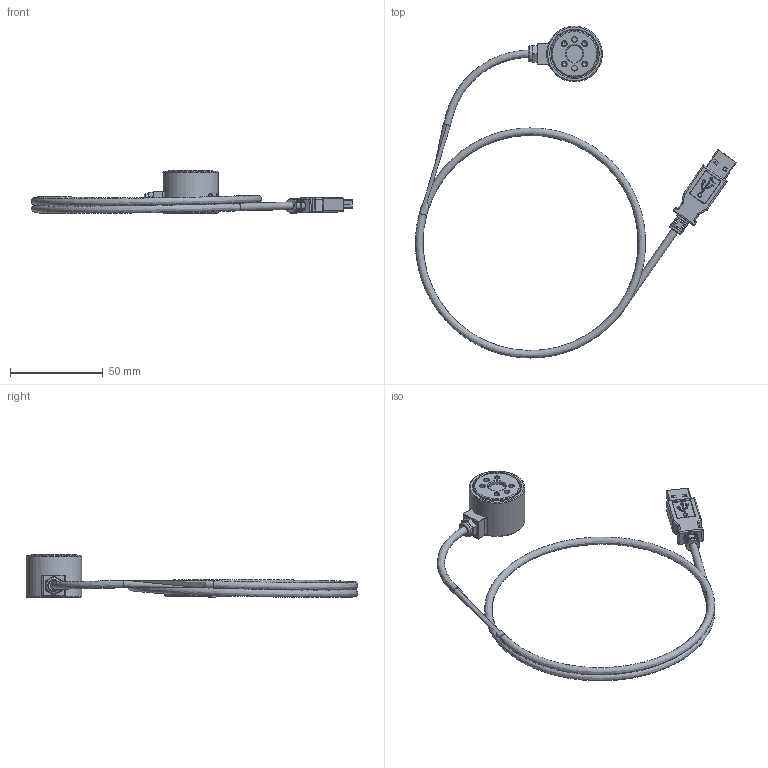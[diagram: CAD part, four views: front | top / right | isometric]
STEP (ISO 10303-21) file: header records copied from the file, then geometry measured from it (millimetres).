
FILE_DESCRIPTION (( 'STEP AP214' ), '1' );
FILE_NAME ('MiniONE Gen A USB 3D File.STEP', '2025-05-21T15:25:37', ( '' ), ( '' ), 'SwSTEP 2.0', 'SolidWorks 2022', '' );
FILE_SCHEMA (( 'AUTOMOTIVE_DESIGN' ));
Length unit declared in the file: millimetre
Products named in the file (49): RigidPart_Default Layer Stack Region_Force_Sensor_Stud-V2; CAPC0603X33X15LL03T05_CMP-1033-00661-2; MEC-SCREW-M1.6-DIN_84_CMP-023-000002-6; MiniPad-v2_BOARD; RigidPart_Layer Stack Region 3_Force_Sensor_Stud-V2; RESC1005X40X25NL05T10_CMP-2002-06609-1; FP-C0402-BB-MFG_CMP-2008-03079-2; LAP-P002_M8_CABLE_GLAND; DIN 912 M2.5 x 12 --- 12S-A2-70-NT_DIN 912 M2.5 x 12 --- 12S-A2-70-NT; RigidPart_Layer Stack Region 7_Force_Sensor_Stud-V2; FlexPart_Layer Stack Region 4_Force_Sensor_Stud-V2; FlexPart_Layer Stack Region 2_Force_Sensor_Stud-V2; MIN-A004_USB; MIN-P000_0.5mmm extra Sensing Element; RESC1005X40X25NL05T05_CMP-2002-00601-1; PAR-00009_PRT-ORING-23x1-NBR-50; MIN-P001_MAIN-BODY; APA1606MGC_CMP-007-00044-2; SOT323-5_MIC5253-3.3BC5_LDO-1; RESC1005X40X25LL10T10_CMP-2002-05747-1; RESC1005X40X25ML05T10_CMP-2002-07889-1; BCM-000_SG-SHEAR-FB; RESC1005X40X25ML05T10_CMP-2002-07896-1; FP-RT0402-MFG_CMP-2002-02575-2; Cable^MIN-A004_MINIONE; MIN-A001_SENSING-ELEMENT; RigidPart_Layer Stack Region 1_Force_Sensor_Stud-V2; USB^MIN-A004; PAR-00006_PRT-LIGHTPIPE-IP68; BCM-001_SG-SHEAR-HB; RESC0603X28X15NL05T05_CMP-2004-00629-1; CAPC0603X33X15LL03T05_CMP-2010-00183-1; APA1606MGC_CMP-007-00039-2; IPS-4101T-01Y901-Footprint-1_CMP-002-00093-2; QFN-32_5x5_P05_EPAD_3D65x3D65_AD7124-8_Sigma_Delta_ADC_8-Channel_24-Bit-1; MiniONE Gen A USB 3D File; ISO 8734 - 1 x 8 - C1-m6-S-HR_ISO 8734 - 1 x 8 - C1-m6-S-HR; CAPC1005X60X30LL05T10_CMP-2008-02056-1; RESC1005X40X25LL05T05_CMP-2002-00609-3; RESC1005X40X25LL05T05_CMP-2002-01154-4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
Assembly tree (14 placements, depth 3):
  RigidPart_Default Layer Stack Region_Force_Sensor_Stud-V2
  CAPC0603X33X15LL03T05_CMP-1033-00661-2
  MEC-SCREW-M1.6-DIN_84_CMP-023-000002-6
  MiniPad-v2_BOARD
  RigidPart_Layer Stack Region 3_Force_Sensor_Stud-V2
Bounding box: 173.01 x 178.94 x 23.2 mm (x, y, z)
Volume: 21059.5 mm3; surface area: 21645.4 mm2
Topology: 18 solids, 18 shells, 869 faces, 2035 edges, 1215 vertices
Faces by surface type: plane 369, cylinder 287, torus 68, cone 63, bspline 53, sphere 29
Full cylindrical faces by diameter (mm): 0.35 x4, 1.5 x4, 1.6 x2, 2.2 x4, 2.5 x7, 3 x4, 3.25 x1, 3.5 x1, 3.7 x2, 4 x1, 4.5 x3, 5 x1, 5.2 x3, 6.2 x4, 6.5 x1, 7 x3, 7.5 x1, 8.5 x1, 9 x1, 23.33 x1, 25 x2, 25.67 x1, 30 x1
Entity records: 28666 total; most frequent: CARTESIAN_POINT 8867, DIRECTION 3894, ORIENTED_EDGE 3760, EDGE_CURVE 1880, AXIS2_PLACEMENT_3D 1477, VERTEX_POINT 1174, EDGE_LOOP 1052, LINE 940
